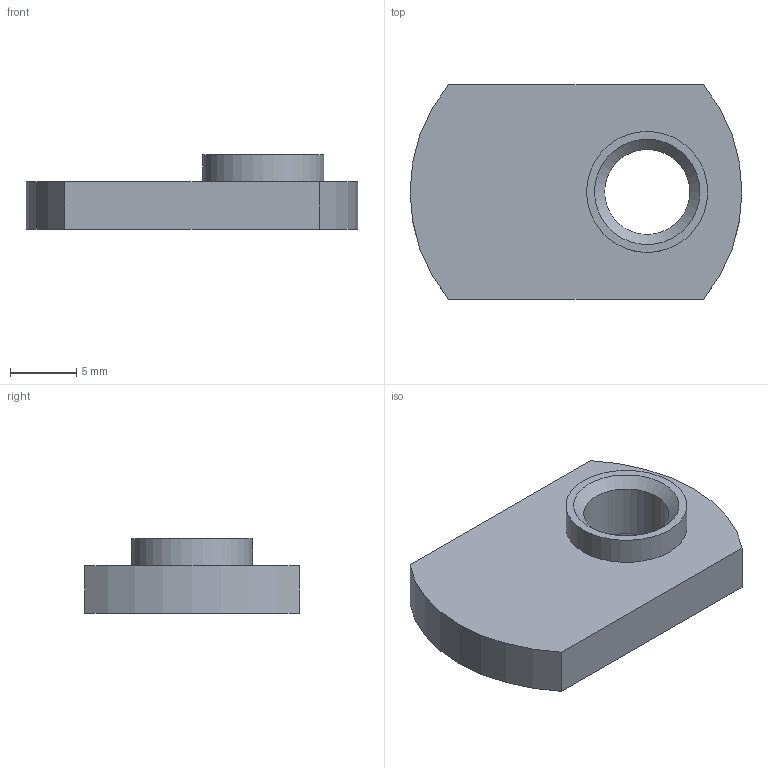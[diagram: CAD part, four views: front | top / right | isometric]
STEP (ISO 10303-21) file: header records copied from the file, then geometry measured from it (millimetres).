
FILE_DESCRIPTION(/* description */ ('STEP AP214'),/* implementation_level */ '2;1');
FILE_NAME(/* name */ '3278',/* time_stamp */ '2023-08-01T17:43:50+02:00',/* author */ ('License CC BY-ND 4.0'),/* organization */ ('CADENAS'),/* preprocessor_version */ 'ST-DEVELOPER v19.3',/* originating_system */ 'PARTsolutions',/* authorisation */ ' ');
FILE_SCHEMA (('AUTOMOTIVE_DESIGN {1 0 10303 214 3 1 1}'));
Length unit declared in the file: inch
Products named in the file (1): 3278
Bounding box: 24.99 x 16.18 x 5.64 mm (x, y, z)
Volume: 1289.1 mm3; surface area: 1104.8 mm2
Topology: 1 solids, 1 shells, 11 faces, 22 edges, 14 vertices
Faces by surface type: plane 5, cylinder 4, cone 2
Full cylindrical faces by diameter (mm): 6.411 x1, 9.119 x1
Entity records: 306 total; most frequent: DIRECTION 52, CARTESIAN_POINT 44, ORIENTED_EDGE 36, AXIS2_PLACEMENT_3D 22, EDGE_CURVE 18, EDGE_LOOP 18, FACE_BOUND 18, VERTEX_POINT 14
